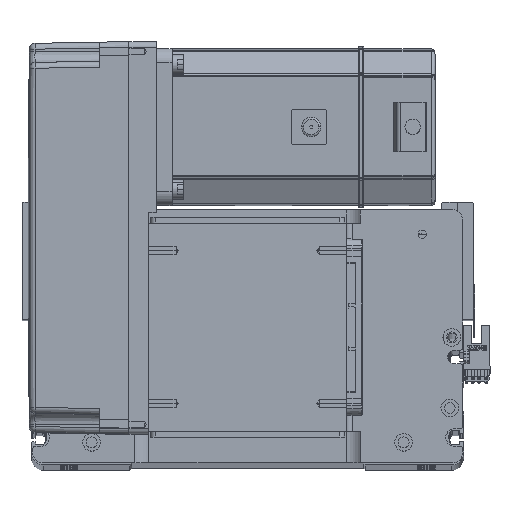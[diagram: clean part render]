
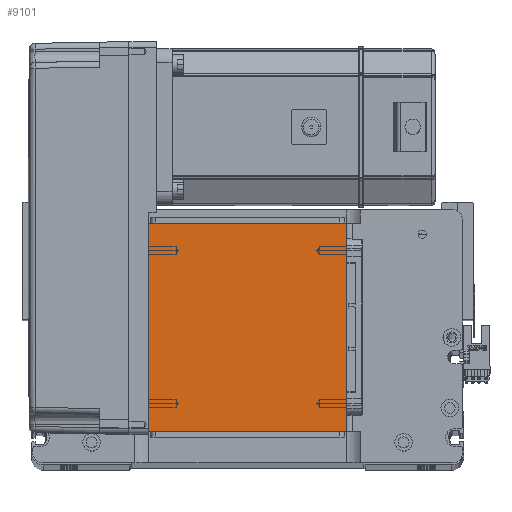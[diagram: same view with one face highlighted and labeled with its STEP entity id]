
A CAD part, top view. The second image highlights one B-rep face of the part: STEP entity #9101.
In plain terms, the highlighted planar face has unit normal (0, 0, 1).
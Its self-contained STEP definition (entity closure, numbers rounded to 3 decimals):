
#452 = VECTOR ( 'NONE', #29092, 1000. ) ;
#2347 = VECTOR ( 'NONE', #43488, 1000. ) ;
#4483 = EDGE_CURVE ( 'NONE', #12209, #30278, #9768, .T. ) ;
#5001 = EDGE_CURVE ( 'NONE', #30278, #9673, #7159, .T. ) ;
#5999 = AXIS2_PLACEMENT_3D ( 'NONE', #49461, #11888, #6969 ) ;
#6969 = DIRECTION ( 'NONE',  ( 1., 0., 0. ) ) ;
#7159 = LINE ( 'NONE', #22902, #50265 ) ;
#8788 = EDGE_CURVE ( 'NONE', #9673, #43570, #13437, .T. ) ;
#9101 = ADVANCED_FACE ( 'NONE', ( #23202 ), #40350, .T. ) ;
#9319 = CARTESIAN_POINT ( 'NONE',  ( -50.5, 16., 115. ) ) ;
#9673 = VERTEX_POINT ( 'NONE', #18061 ) ;
#9706 = DIRECTION ( 'NONE',  ( 0., 1., 0. ) ) ;
#9768 = LINE ( 'NONE', #13895, #11791 ) ;
#11791 = VECTOR ( 'NONE', #9706, 1000. ) ;
#11888 = DIRECTION ( 'NONE',  ( 0., 0., 1. ) ) ;
#12209 = VERTEX_POINT ( 'NONE', #20766 ) ;
#13437 = LINE ( 'NONE', #18697, #2347 ) ;
#13895 = CARTESIAN_POINT ( 'NONE',  ( 50.5, 122., 115. ) ) ;
#18061 = CARTESIAN_POINT ( 'NONE',  ( -50.5, 122., 115. ) ) ;
#18697 = CARTESIAN_POINT ( 'NONE',  ( -50.5, 122., 115. ) ) ;
#20766 = CARTESIAN_POINT ( 'NONE',  ( 50.5, 16., 115. ) ) ;
#22902 = CARTESIAN_POINT ( 'NONE',  ( -50.5, 122., 115. ) ) ;
#23202 = FACE_OUTER_BOUND ( 'NONE', #34478, .T. ) ;
#27085 = DIRECTION ( 'NONE',  ( -1., 0., 0. ) ) ;
#29092 = DIRECTION ( 'NONE',  ( 1., 0., 0. ) ) ;
#30278 = VERTEX_POINT ( 'NONE', #33056 ) ;
#31306 = ORIENTED_EDGE ( 'NONE', *, *, #8788, .T. ) ;
#33056 = CARTESIAN_POINT ( 'NONE',  ( 50.5, 122., 115. ) ) ;
#33632 = ORIENTED_EDGE ( 'NONE', *, *, #51534, .T. ) ;
#34478 = EDGE_LOOP ( 'NONE', ( #31306, #33632, #50148, #35000 ) ) ;
#35000 = ORIENTED_EDGE ( 'NONE', *, *, #5001, .T. ) ;
#40350 = PLANE ( 'NONE',  #5999 ) ;
#43050 = CARTESIAN_POINT ( 'NONE',  ( -50.5, 16., 115. ) ) ;
#43488 = DIRECTION ( 'NONE',  ( 0., -1., 0. ) ) ;
#43570 = VERTEX_POINT ( 'NONE', #43050 ) ;
#49461 = CARTESIAN_POINT ( 'NONE',  ( 0., 0., 115. ) ) ;
#50148 = ORIENTED_EDGE ( 'NONE', *, *, #4483, .T. ) ;
#50265 = VECTOR ( 'NONE', #27085, 1000. ) ;
#51534 = EDGE_CURVE ( 'NONE', #43570, #12209, #54081, .T. ) ;
#54081 = LINE ( 'NONE', #9319, #452 ) ;
